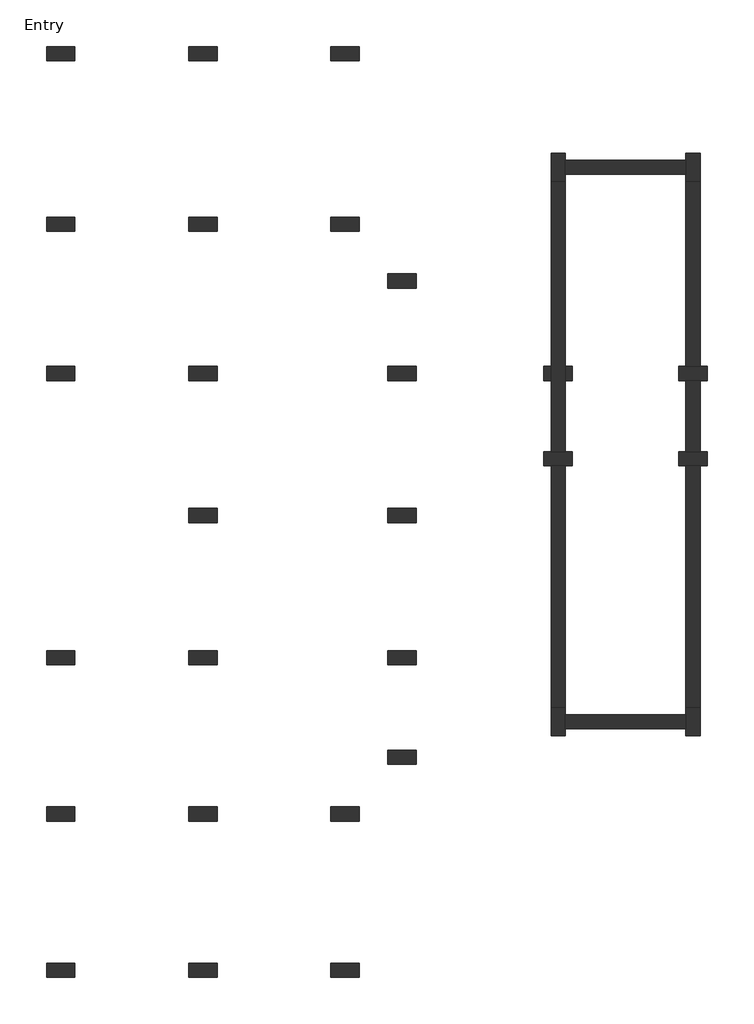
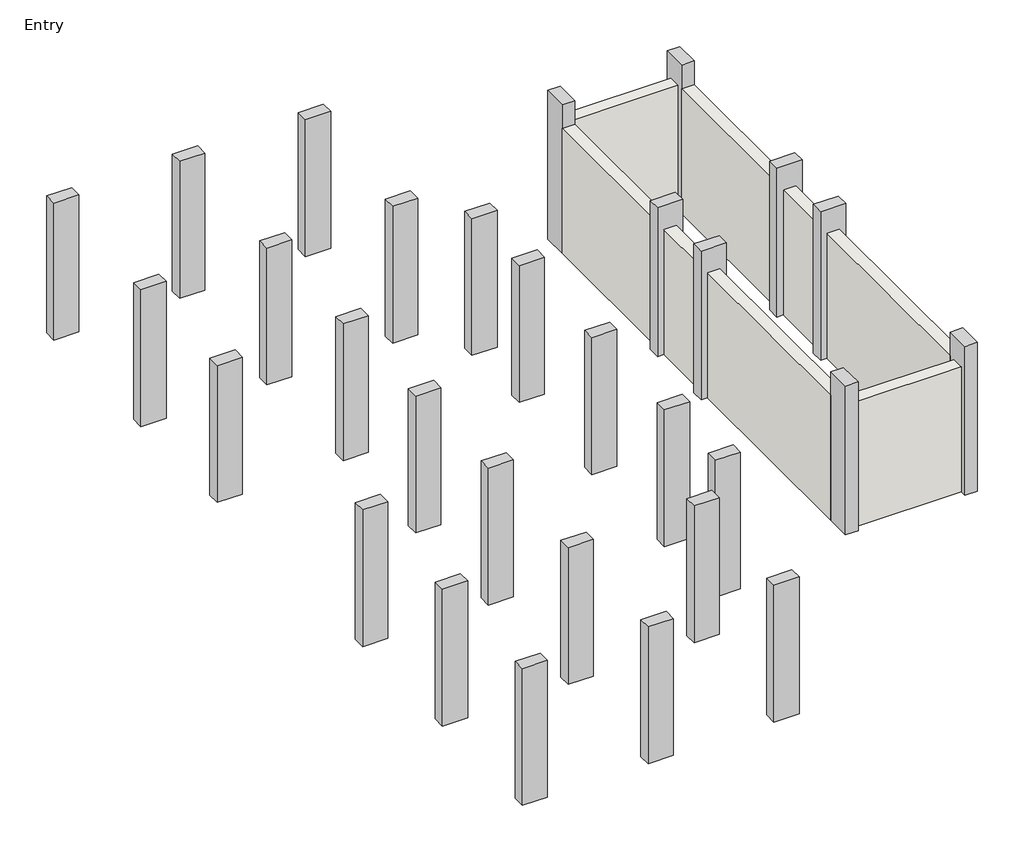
# One storey: 30 columns, 7 walls.
"""IFC4 building model written with IfcOpenShell, lengths in millimetres."""

from ifc_helpers import new_model, si_unit, frame, origin, origin_with_axes, place, context, project, spatial, polyline, outline, extrude, faceted_brep, transform, mapped, element, save
from components import concrete_rectangular_column_12_x_24_9e7f9cbb

model = new_model("IFC4")

# Units and contexts
model_context = context("Model", 3, world=origin())
ifc_project = project(units=[si_unit("LENGTHUNIT", "METRE", prefix="MILLI")], contexts=[model_context])

# Site, building, storey
site = spatial("IfcSite", under=ifc_project)
building = spatial("IfcBuilding", under=site)
storey = spatial("IfcBuildingStorey", under=building, Name="Entry", Elevation=0.0)

# Columns
placement = place(None, origin())
element("IfcColumn", 1, ObjectType="Concrete-Rectangular-Column : 12 x 24", at=placement, inside=storey, context=model_context, shape_type="SweptSolid", body=[
    extrude(outline(polyline([(0.0, -2194.2500241), (3810.0, -2194.2500241), (3810.0, -2803.8500241), (0.0, -2803.8500241), (0.0, -2651.4500241), (3200.4, -2651.4500241), (3200.4, -2346.6500241), (0.0, -2346.6500241), (0.0, -2194.2500241)])), frame((0.0, 16606.2572372, 0.0), z_axis=(0.0, 1.0, 0.0), x_axis=(0.0, 0.0, 1.0)), (0.0, 0.0, 1.0), 304.8),
])
element("IfcColumn", 2, ObjectType="Concrete-Rectangular-Column : 12 x 24", at=placement, inside=storey, context=model_context, shape_type="Brep", body=[
    faceted_brep([(89.9860546, 16911.0572372, 0.0), (242.3860546, 16911.0572372, 0.0), (547.1860546, 16911.0572372, 0.0), (699.5860546, 16911.0572372, 0.0), (699.5860546, 16606.2572372, 0.0), (547.1860546, 16606.2572372, 0.0), (242.3860546, 16606.2572372, 0.0), (89.9860546, 16606.2572372, 0.0), (89.9860546, 16911.0572372, 3810.0), (699.5860546, 16911.0572372, 3810.0), (699.5860546, 16606.2572372, 3810.0), (89.9860546, 16606.2572372, 3810.0)], [[[0, 1, 2, 3, 4, 5, 6, 7]], [[8, 9, 3, 2, 1, 0]], [[9, 10, 4, 3]], [[10, 11, 7, 6, 5, 4]], [[11, 8, 0, 7]], [[8, 11, 10, 9]]]),
])
element("IfcColumn", 3, ObjectType="Concrete-Rectangular-Column : 12 x 24", at=placement, inside=storey, context=model_context, shape_type="Brep", body=[
    faceted_brep([(89.9860546, 15082.2572372, 0.0), (242.3860546, 15082.2572372, 0.0), (547.1860546, 15082.2572372, 0.0), (699.5860546, 15082.2572372, 0.0), (699.5860546, 14777.4572372, 0.0), (547.1860546, 14777.4572372, 0.0), (242.3860546, 14777.4572372, 0.0), (89.9860546, 14777.4572372, 0.0), (89.9860546, 15082.2572372, 3810.0), (699.5860546, 15082.2572372, 3810.0), (699.5860546, 14777.4572372, 3810.0), (89.9860546, 14777.4572372, 3810.0)], [[[0, 1, 2, 3, 4, 5, 6, 7]], [[8, 9, 3, 2, 1, 0]], [[9, 10, 4, 3]], [[10, 11, 7, 6, 5, 4]], [[11, 8, 0, 7]], [[8, 11, 10, 9]]]),
])
element("IfcColumn", 4, ObjectType="Concrete-Rectangular-Column : 12 x 24", at=placement, inside=storey, context=model_context, shape_type="Brep", body=[
    faceted_brep([(-2803.8500241, 15082.2572372, 0.0), (-2651.4500241, 15082.2572372, 0.0), (-2346.6500241, 15082.2572372, 0.0), (-2194.2500241, 15082.2572372, 0.0), (-2194.2500241, 14777.4572372, 0.0), (-2346.6500241, 14777.4572372, 0.0), (-2651.4500241, 14777.4572372, 0.0), (-2803.8500241, 14777.4572372, 0.0), (-2803.8500241, 15082.2572372, 3810.0), (-2194.2500241, 15082.2572372, 3810.0), (-2194.2500241, 14777.4572372, 3810.0), (-2803.8500241, 14777.4572372, 3810.0)], [[[0, 1, 2, 3, 4, 5, 6, 7]], [[8, 9, 3, 2, 1, 0]], [[9, 10, 4, 3]], [[10, 11, 7, 6, 5, 4]], [[11, 8, 0, 7]], [[8, 11, 10, 9]]]),
])
element("IfcColumn", 5, ObjectType="Concrete-Rectangular-Column : 12 x 24", at=placement, inside=storey, context=model_context, shape_type="Brep", body=[
    faceted_brep([(-2346.6500241, 21483.0572372, 0.0), (-2346.6500241, 21330.6572372, 0.0), (-2346.6500241, 21025.8572372, 0.0), (-2346.6500241, 20873.4572372, 0.0), (-2651.4500241, 20873.4572372, 0.0), (-2651.4500241, 21483.0572372, 0.0), (-2346.6500241, 21483.0572372, 3810.0), (-2346.6500241, 20873.4572372, 3810.0), (-2346.6500241, 20873.4572372, 3200.4), (-2651.4500241, 20873.4572372, 3810.0), (-2651.4500241, 20873.4572372, 3200.4), (-2651.4500241, 21483.0572372, 3810.0)], [[[0, 1, 2, 3, 4, 5]], [[6, 7, 8, 3, 2, 1, 0]], [[7, 9, 10, 4, 3, 8]], [[9, 11, 5, 4, 10]], [[11, 6, 0, 5]], [[6, 11, 9, 7]]]),
])
element("IfcColumn", 6, ObjectType="Concrete-Rectangular-Column : 12 x 24", at=placement, inside=storey, context=model_context, shape_type="Brep", body=[
    faceted_brep([(547.1860546, 21483.0572372, 0.0), (547.1860546, 20873.4572372, 0.0), (242.3860546, 20873.4572372, 0.0), (242.3860546, 21025.8572372, 0.0), (242.3860546, 21330.6572372, 0.0), (242.3860546, 21483.0572372, 0.0), (547.1860546, 21483.0572372, 3810.0), (547.1860546, 20873.4572372, 3810.0), (547.1860546, 20873.4572372, 3200.4), (242.3860546, 20873.4572372, 3810.0), (242.3860546, 20873.4572372, 3200.4), (242.3860546, 21483.0572372, 3810.0)], [[[0, 1, 2, 3, 4, 5]], [[6, 7, 8, 1, 0]], [[7, 9, 10, 2, 1, 8]], [[9, 11, 5, 4, 3, 2, 10]], [[11, 6, 0, 5]], [[6, 11, 9, 7]]]),
])
element("IfcColumn", 7, ObjectType="Concrete-Rectangular-Column : 12 x 24", at=placement, inside=storey, context=model_context, shape_type="Brep", body=[
    faceted_brep([(-2346.6500241, 9595.8572372, 0.0), (-2346.6500241, 9443.4572372, 0.0), (-2346.6500241, 9138.6572372, 0.0), (-2346.6500241, 8986.2572372, 0.0), (-2651.4500241, 8986.2572372, 0.0), (-2651.4500241, 9595.8572372, 0.0), (-2346.6500241, 9595.8572372, 3810.0), (-2346.6500241, 8986.2572372, 3810.0), (-2346.6500241, 9595.8572372, 3200.4), (-2651.4500241, 8986.2572372, 3810.0), (-2651.4500241, 9595.8572372, 3810.0), (-2651.4500241, 9595.8572372, 3200.4)], [[[0, 1, 2, 3, 4, 5]], [[6, 7, 3, 2, 1, 0, 8]], [[7, 9, 4, 3]], [[9, 10, 11, 5, 4]], [[10, 6, 8, 0, 5, 11]], [[6, 10, 9, 7]]]),
])
element("IfcColumn", 8, ObjectType="Concrete-Rectangular-Column : 12 x 24", at=placement, inside=storey, context=model_context, shape_type="Brep", body=[
    faceted_brep([(547.1860546, 9595.8572372, 0.0), (547.1860546, 8986.2572372, 0.0), (242.3860546, 8986.2572372, 0.0), (242.3860546, 9138.6572372, 0.0), (242.3860546, 9443.4572372, 0.0), (242.3860546, 9595.8572372, 0.0), (547.1860546, 9595.8572372, 3810.0), (547.1860546, 8986.2572372, 3810.0), (547.1860546, 9595.8572372, 3200.4), (242.3860546, 8986.2572372, 3810.0), (242.3860546, 9595.8572372, 3810.0), (242.3860546, 9595.8572372, 3200.4)], [[[0, 1, 2, 3, 4, 5]], [[6, 7, 1, 0, 8]], [[7, 9, 2, 1]], [[9, 10, 11, 5, 4, 3, 2]], [[10, 6, 8, 0, 5, 11]], [[6, 10, 9, 7]]]),
])
concrete_rectangular_column_12_x_24_shape = concrete_rectangular_column_12_x_24_9e7f9cbb(model_context)
element("IfcColumn", 9, ObjectType="Concrete-Rectangular-Column : 12 x 24", at=placement, inside=storey, context=model_context, shape_type="MappedRepresentation", body=[
    mapped(concrete_rectangular_column_12_x_24_shape, transform((-13166.3073204, 23616.6572372, 0.0), x_axis=(0.0, 1.0, 0.0), y_axis=(-1.0, 0.0, 0.0), z_axis=(0.0, 0.0, 1.0))),
])
element("IfcColumn", 10, ObjectType="Concrete-Rectangular-Column : 12 x 24", at=placement, inside=storey, context=model_context, shape_type="MappedRepresentation", body=[
    mapped(concrete_rectangular_column_12_x_24_shape, transform((-10118.3073204, 23616.6572372, 0.0), x_axis=(0.0, 1.0, 0.0), y_axis=(-1.0, 0.0, 0.0), z_axis=(0.0, 0.0, 1.0))),
])
element("IfcColumn", 11, ObjectType="Concrete-Rectangular-Column : 12 x 24", at=placement, inside=storey, context=model_context, shape_type="MappedRepresentation", body=[
    mapped(concrete_rectangular_column_12_x_24_shape, transform((-7070.3073204, 23616.6572372, 0.0), x_axis=(0.0, 1.0, 0.0), y_axis=(-1.0, 0.0, 0.0), z_axis=(0.0, 0.0, 1.0))),
])
element("IfcColumn", 12, ObjectType="Concrete-Rectangular-Column : 12 x 24", at=placement, inside=storey, context=model_context, shape_type="MappedRepresentation", body=[
    mapped(concrete_rectangular_column_12_x_24_shape, transform((-13166.3073204, 19959.0572372, 0.0), x_axis=(0.0, 1.0, 0.0), y_axis=(-1.0, 0.0, 0.0), z_axis=(0.0, 0.0, 1.0))),
])
element("IfcColumn", 13, ObjectType="Concrete-Rectangular-Column : 12 x 24", at=placement, inside=storey, context=model_context, shape_type="MappedRepresentation", body=[
    mapped(concrete_rectangular_column_12_x_24_shape, transform((-10118.3073204, 19959.0572372, 0.0), x_axis=(0.0, 1.0, 0.0), y_axis=(-1.0, 0.0, 0.0), z_axis=(0.0, 0.0, 1.0))),
])
element("IfcColumn", 14, ObjectType="Concrete-Rectangular-Column : 12 x 24", at=placement, inside=storey, context=model_context, shape_type="MappedRepresentation", body=[
    mapped(concrete_rectangular_column_12_x_24_shape, transform((-7070.3073204, 19959.0572372, 0.0), x_axis=(0.0, 1.0, 0.0), y_axis=(-1.0, 0.0, 0.0), z_axis=(0.0, 0.0, 1.0))),
])
element("IfcColumn", 15, ObjectType="Concrete-Rectangular-Column : 12 x 24", at=placement, inside=storey, context=model_context, shape_type="MappedRepresentation", body=[
    mapped(concrete_rectangular_column_12_x_24_shape, transform((-5851.8500241, 18740.5999409, 0.0), x_axis=(0.0, 1.0, 0.0), y_axis=(-1.0, 0.0, 0.0), z_axis=(0.0, 0.0, 1.0))),
])
element("IfcColumn", 16, ObjectType="Concrete-Rectangular-Column : 12 x 24", at=placement, inside=storey, context=model_context, shape_type="MappedRepresentation", body=[
    mapped(concrete_rectangular_column_12_x_24_shape, transform((-13166.3073204, 16758.6572372, 0.0), x_axis=(0.0, 1.0, 0.0), y_axis=(-1.0, 0.0, 0.0), z_axis=(0.0, 0.0, 1.0))),
])
element("IfcColumn", 17, ObjectType="Concrete-Rectangular-Column : 12 x 24", at=placement, inside=storey, context=model_context, shape_type="MappedRepresentation", body=[
    mapped(concrete_rectangular_column_12_x_24_shape, transform((-10118.3073204, 16758.6572372, 0.0), x_axis=(0.0, 1.0, 0.0), y_axis=(-1.0, 0.0, 0.0), z_axis=(0.0, 0.0, 1.0))),
])
element("IfcColumn", 18, ObjectType="Concrete-Rectangular-Column : 12 x 24", at=placement, inside=storey, context=model_context, shape_type="MappedRepresentation", body=[
    mapped(concrete_rectangular_column_12_x_24_shape, transform((-5851.8500241, 16758.6572372, 0.0), x_axis=(0.0, 1.0, 0.0), y_axis=(-1.0, 0.0, 0.0), z_axis=(0.0, 0.0, 1.0))),
])
element("IfcColumn", 19, ObjectType="Concrete-Rectangular-Column : 12 x 24", at=placement, inside=storey, context=model_context, shape_type="MappedRepresentation", body=[
    mapped(concrete_rectangular_column_12_x_24_shape, transform((-5851.8500241, 13710.6572372, 0.0), x_axis=(0.0, 1.0, 0.0), y_axis=(-1.0, 0.0, 0.0), z_axis=(0.0, 0.0, 1.0))),
])
element("IfcColumn", 20, ObjectType="Concrete-Rectangular-Column : 12 x 24", at=placement, inside=storey, context=model_context, shape_type="MappedRepresentation", body=[
    mapped(concrete_rectangular_column_12_x_24_shape, transform((-10118.3073204, 13710.6572372, 0.0), x_axis=(0.0, 1.0, 0.0), y_axis=(-1.0, 0.0, 0.0), z_axis=(0.0, 0.0, 1.0))),
])
element("IfcColumn", 21, ObjectType="Concrete-Rectangular-Column : 12 x 24", at=placement, inside=storey, context=model_context, shape_type="MappedRepresentation", body=[
    mapped(concrete_rectangular_column_12_x_24_shape, transform((-13166.3073204, 10662.6572372, 0.0), x_axis=(0.0, 1.0, 0.0), y_axis=(-1.0, 0.0, 0.0), z_axis=(0.0, 0.0, 1.0))),
])
element("IfcColumn", 22, ObjectType="Concrete-Rectangular-Column : 12 x 24", at=placement, inside=storey, context=model_context, shape_type="MappedRepresentation", body=[
    mapped(concrete_rectangular_column_12_x_24_shape, transform((-10118.3073204, 10662.6572372, 0.0), x_axis=(0.0, 1.0, 0.0), y_axis=(-1.0, 0.0, 0.0), z_axis=(0.0, 0.0, 1.0))),
])
element("IfcColumn", 23, ObjectType="Concrete-Rectangular-Column : 12 x 24", at=placement, inside=storey, context=model_context, shape_type="MappedRepresentation", body=[
    mapped(concrete_rectangular_column_12_x_24_shape, transform((-5851.8500241, 10662.6572372, 0.0), x_axis=(0.0, 1.0, 0.0), y_axis=(-1.0, 0.0, 0.0), z_axis=(0.0, 0.0, 1.0))),
])
element("IfcColumn", 24, ObjectType="Concrete-Rectangular-Column : 12 x 24", at=placement, inside=storey, context=model_context, shape_type="MappedRepresentation", body=[
    mapped(concrete_rectangular_column_12_x_24_shape, transform((-5851.8500241, 8529.0572372, 0.0), x_axis=(0.0, 1.0, 0.0), y_axis=(-1.0, 0.0, 0.0), z_axis=(0.0, 0.0, 1.0))),
])
element("IfcColumn", 25, ObjectType="Concrete-Rectangular-Column : 12 x 24", at=placement, inside=storey, context=model_context, shape_type="MappedRepresentation", body=[
    mapped(concrete_rectangular_column_12_x_24_shape, transform((-7071.0500241, 7309.8572372, 0.0), x_axis=(0.0, 1.0, 0.0), y_axis=(-1.0, 0.0, 0.0), z_axis=(0.0, 0.0, 1.0))),
])
element("IfcColumn", 26, ObjectType="Concrete-Rectangular-Column : 12 x 24", at=placement, inside=storey, context=model_context, shape_type="MappedRepresentation", body=[
    mapped(concrete_rectangular_column_12_x_24_shape, transform((-10118.3073204, 7309.8572372, 0.0), x_axis=(0.0, 1.0, 0.0), y_axis=(-1.0, 0.0, 0.0), z_axis=(0.0, 0.0, 1.0))),
])
element("IfcColumn", 27, ObjectType="Concrete-Rectangular-Column : 12 x 24", at=placement, inside=storey, context=model_context, shape_type="MappedRepresentation", body=[
    mapped(concrete_rectangular_column_12_x_24_shape, transform((-13166.3073204, 7309.8572372, 0.0), x_axis=(0.0, 1.0, 0.0), y_axis=(-1.0, 0.0, 0.0), z_axis=(0.0, 0.0, 1.0))),
])
element("IfcColumn", 28, ObjectType="Concrete-Rectangular-Column : 12 x 24", at=placement, inside=storey, context=model_context, shape_type="MappedRepresentation", body=[
    mapped(concrete_rectangular_column_12_x_24_shape, transform((-13166.3073204, 3957.0572372, 0.0), x_axis=(0.0, 1.0, 0.0), y_axis=(-1.0, 0.0, 0.0), z_axis=(0.0, 0.0, 1.0))),
])
element("IfcColumn", 29, ObjectType="Concrete-Rectangular-Column : 12 x 24", at=placement, inside=storey, context=model_context, shape_type="MappedRepresentation", body=[
    mapped(concrete_rectangular_column_12_x_24_shape, transform((-10118.3073204, 3957.0572372, 0.0), x_axis=(0.0, 1.0, 0.0), y_axis=(-1.0, 0.0, 0.0), z_axis=(0.0, 0.0, 1.0))),
])
element("IfcColumn", 30, ObjectType="Concrete-Rectangular-Column : 12 x 24", at=placement, inside=storey, context=model_context, shape_type="MappedRepresentation", body=[
    mapped(concrete_rectangular_column_12_x_24_shape, transform((-7070.3073204, 3957.0572372, 0.0), x_axis=(0.0, 1.0, 0.0), y_axis=(-1.0, 0.0, 0.0), z_axis=(0.0, 0.0, 1.0))),
])

# Walls
element("IfcWall", 31, ObjectType="Core-Shaft - 12\" Concrete", at=placement, inside=storey, context=model_context, shape_type="SweptSolid", body=[
    extrude(outline(polyline([(242.3860546, 21025.8572372), (-2346.6500241, 21025.8572372), (-2346.6500241, 21330.6572372), (242.3860546, 21330.6572372), (242.3860546, 21025.8572372)])), origin_with_axes(), (0.0, 0.0, 1.0), 3200.4),
])
element("IfcWall", 32, ObjectType="Core-Shaft - 12\" Concrete", at=placement, inside=storey, context=model_context, shape_type="SweptSolid", body=[
    extrude(outline(polyline([(242.3860546, 16911.0572372), (242.3860546, 20873.4572372), (547.1860546, 20873.4572372), (547.1860546, 16911.0572372), (242.3860546, 16911.0572372)])), origin_with_axes(), (0.0, 0.0, 1.0), 3200.4),
])
element("IfcWall", 33, ObjectType="Core-Shaft - 12\" Concrete", at=placement, inside=storey, context=model_context, shape_type="SweptSolid", body=[
    extrude(outline(polyline([(242.3860546, 15082.2572372), (242.3860546, 16606.2572372), (547.1860546, 16606.2572372), (547.1860546, 15082.2572372), (242.3860546, 15082.2572372)])), origin_with_axes(), (0.0, 0.0, 1.0), 3200.4),
])
element("IfcWall", 34, ObjectType="Core-Shaft - 12\" Concrete", at=placement, inside=storey, context=model_context, shape_type="SweptSolid", body=[
    extrude(outline(polyline([(242.3860546, 9595.8572372), (242.3860546, 14777.4572372), (547.1860546, 14777.4572372), (547.1860546, 9595.8572372), (242.3860546, 9595.8572372)])), origin_with_axes(), (0.0, 0.0, 1.0), 3200.4),
])
element("IfcWall", 35, ObjectType="Core-Shaft - 12\" Concrete", at=placement, inside=storey, context=model_context, shape_type="SweptSolid", body=[
    extrude(outline(polyline([(-2346.6500241, 9443.4572372), (242.3860546, 9443.4572372), (242.3860546, 9138.6572372), (-2346.6500241, 9138.6572372), (-2346.6500241, 9443.4572372)])), origin_with_axes(), (0.0, 0.0, 1.0), 3200.4),
])
element("IfcWall", 36, ObjectType="Core-Shaft - 12\" Concrete", at=placement, inside=storey, context=model_context, shape_type="SweptSolid", body=[
    extrude(outline(polyline([(-2346.6500241, 14777.4572372), (-2346.6500241, 9595.8572372), (-2651.4500241, 9595.8572372), (-2651.4500241, 14777.4572372), (-2346.6500241, 14777.4572372)])), origin_with_axes(), (0.0, 0.0, 1.0), 3200.4),
])
element("IfcWall", 37, ObjectType="Core-Shaft - 12\" Concrete", at=placement, inside=storey, context=model_context, shape_type="Brep", body=[
    faceted_brep([(-2346.6500241, 15082.2572372, 0.0), (-2346.6500241, 16606.2572372, 0.0), (-2346.6500241, 16911.0572372, 0.0), (-2346.6500241, 20873.4572372, 0.0), (-2346.6500241, 20873.4572372, 3200.4), (-2346.6500241, 16911.0572372, 3200.4), (-2346.6500241, 16606.2572372, 3200.4), (-2346.6500241, 15082.2572372, 3200.4), (-2651.4500241, 15082.2572372, 0.0), (-2651.4500241, 15082.2572372, 3200.4), (-2651.4500241, 16606.2572372, 3200.4), (-2651.4500241, 16911.0572372, 3200.4), (-2651.4500241, 20873.4572372, 3200.4), (-2651.4500241, 20873.4572372, 0.0), (-2651.4500241, 16911.0572372, 0.0), (-2651.4500241, 16606.2572372, 0.0)], [[[0, 1, 2, 3, 4, 5, 6, 7]], [[8, 9, 10, 11, 12, 13, 14, 15]], [[3, 2, 1, 0, 8, 15, 14, 13]], [[4, 3, 13, 12]], [[7, 6, 5, 4, 12, 11, 10, 9]], [[0, 7, 9, 8]]]),
])

save(model, "model.ifc")
